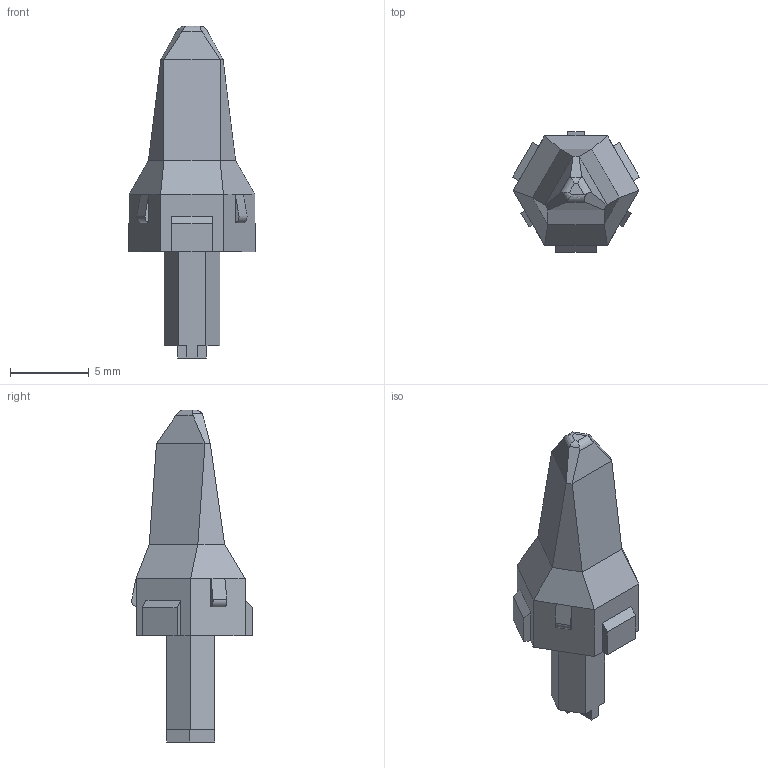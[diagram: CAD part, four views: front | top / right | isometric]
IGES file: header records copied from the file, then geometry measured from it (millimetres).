
Start section:  PTC IGES file: c-w3p-99-3d.igs
Global section: file name: c-w3p-99-3d.igs; native system: Pro/ENGINEER by Parametric Technology Corporation; preprocessor: 2011490; author: workeradm; organization: Unknown; units: millimetre
Bounding box: 8.05 x 7.64 x 21.03 mm (x, y, z)
Surface area: 371 mm2 (no closed solid volume)
Topology: 0 solids, 0 shells, 70 faces, 354 edges, 354 vertices
Faces by surface type: bspline 62, revolution 8
